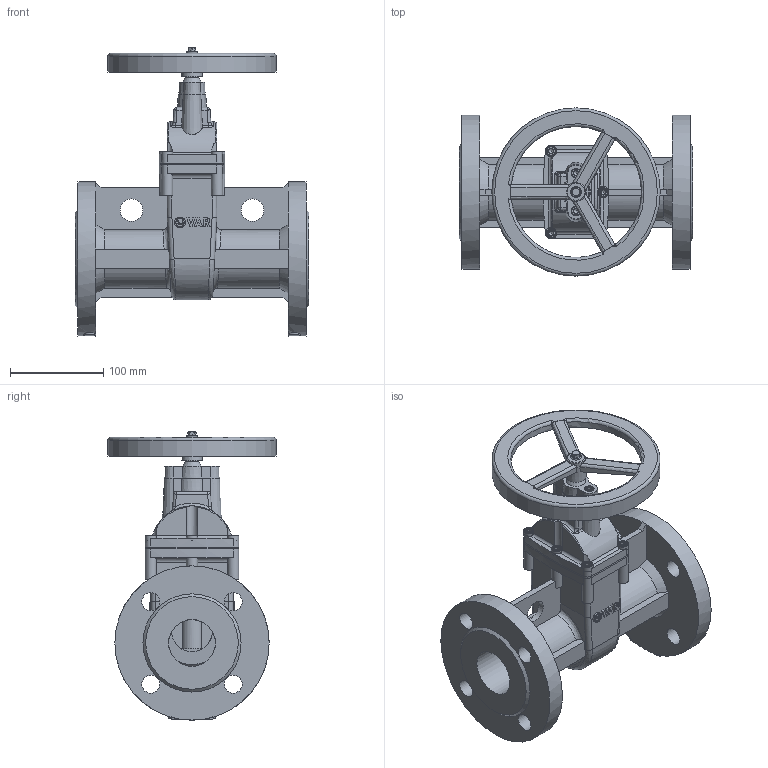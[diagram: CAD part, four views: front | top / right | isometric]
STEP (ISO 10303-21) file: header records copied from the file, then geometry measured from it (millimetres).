
FILE_DESCRIPTION(('STEP AP242'), '1');
FILE_NAME('青溻桄赅', '', ('UNSPECIFIED'), ('UNSPECIFIED'), 'C3D Converter', 'C3D Toolkit', '');
FILE_SCHEMA(('AP242_MANAGED_MODEL_BASED_3D_ENGINEERING_MIM_LF { 1 0 10303 442 1 1 4 }'));
Length unit declared in the file: millimetre
Assembly tree (17 placements, depth 2):
  (unnamed)
    (unnamed)
    (unnamed)
    (unnamed)
    (unnamed)
    (unnamed)  x2
    (unnamed)
    (unnamed)
    (unnamed)  x6
    (unnamed)
    (unnamed)  x2
Bounding box: 250 x 180 x 308.3 mm (x, y, z)
Volume: 1688338.4 mm3; surface area: 418530.3 mm2
Topology: 20 solids, 20 shells, 937 faces, 2333 edges, 1484 vertices
Faces by surface type: plane 461, cylinder 189, extrusion 135, cone 69, bspline 62, torus 21
Full cylindrical faces by diameter (mm): 5 x11, 6 x30, 10 x8, 10.2 x8, 11 x7, 11.421 x1, 19 x8, 23.667 x3, 24 x2, 43.667 x2, 50 x4, 70.267 x4, 75.333 x1, 140 x1, 150 x1, 165 x2, 170 x1, 180 x1
Entity records: 40447 total; most frequent: CARTESIAN_POINT 19751, ORIENTED_EDGE 3792, DIRECTION 3008, EDGE_CURVE 1896, VERTEX_POINT 1288, VECTOR 1038, EDGE_LOOP 1024, AXIS2_PLACEMENT_3D 985
